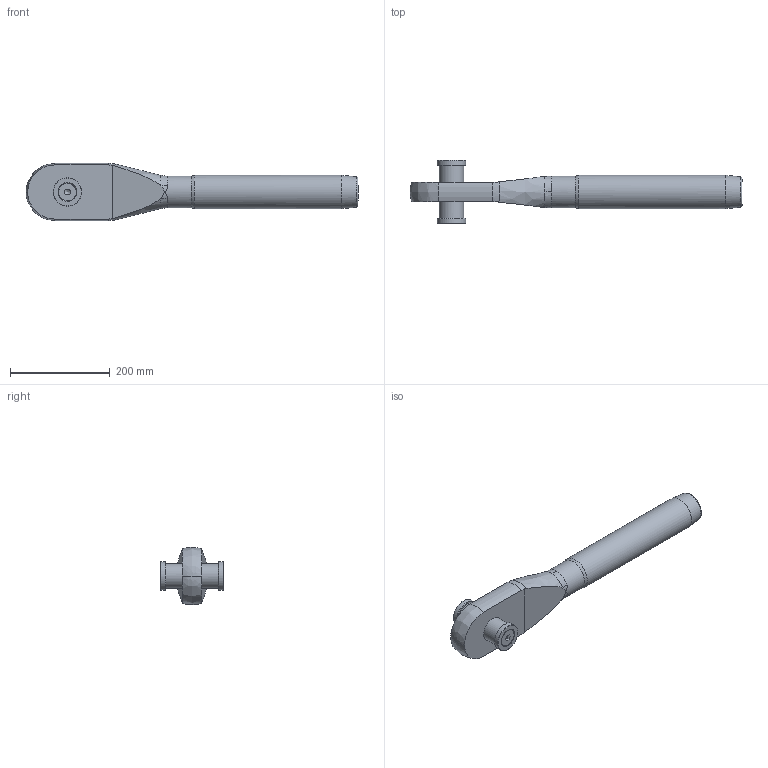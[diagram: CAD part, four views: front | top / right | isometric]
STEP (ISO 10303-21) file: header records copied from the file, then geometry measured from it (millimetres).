
FILE_DESCRIPTION(/* description */ (''),/* implementation_level */ '2;1');
FILE_NAME(/* name */ 'MCC 36_42CrMo4',/* time_stamp */ '2023-05-23T15:41:06+02:00',/* author */ (''),/* organization */ (''),/* preprocessor_version */ 'ST-DEVELOPER v16.5',/* originating_system */ 'Rhino 7.22',/* authorisation */ '');
FILE_SCHEMA (('CONFIG_CONTROL_DESIGN'));
Length unit declared in the file: millimetre
Products named in the file (1): Document
Bounding box: 664.5 x 126.07 x 114.99 mm (x, y, z)
Volume: 2627141.2 mm3; surface area: 206480.3 mm2
Topology: 6 solids, 6 shells, 74 faces, 203 edges, 135 vertices
Faces by surface type: bspline 31, plane 27, cylinder 16
Full cylindrical faces by diameter (mm): 17.294 x2, 20 x2, 21 x2, 35.4 x2, 49 x1, 51 x1, 57 x2, 63.5 x1, 66.8 x1
Entity records: 3250 total; most frequent: CARTESIAN_POINT 1995, ORIENTED_EDGE 386, EDGE_CURVE 193, VERTEX_POINT 135, EDGE_LOOP 84, ADVANCED_FACE 74, FACE_OUTER_BOUND 74, B_SPLINE_CURVE_WITH_KNOTS 64
